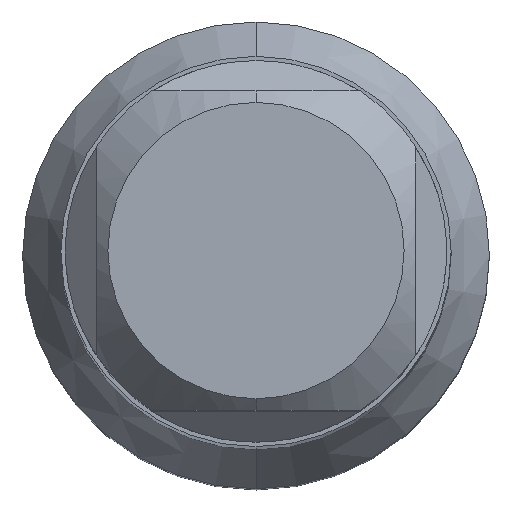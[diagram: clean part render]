
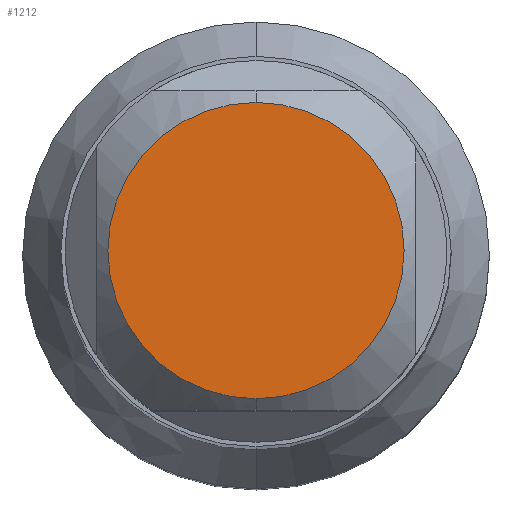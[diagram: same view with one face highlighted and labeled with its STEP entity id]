
A CAD part, top view. The second image highlights one B-rep face of the part: STEP entity #1212.
In plain terms, the highlighted planar face has unit normal (0, 0, 1).
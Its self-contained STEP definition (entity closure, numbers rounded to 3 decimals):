
#40 = DIRECTION ( 'NONE',  ( 0., 1., 0. ) ) ;
#48 = EDGE_CURVE ( 'NONE', #427, #1203, #729, .T. ) ;
#147 = CARTESIAN_POINT ( 'NONE',  ( 0., -4.175, 60. ) ) ;
#212 = AXIS2_PLACEMENT_3D ( 'NONE', #1175, #462, #40 ) ;
#379 = AXIS2_PLACEMENT_3D ( 'NONE', #669, #667, #665 ) ;
#389 = ORIENTED_EDGE ( 'NONE', *, *, #1161, .F. ) ;
#427 = VERTEX_POINT ( 'NONE', #147 ) ;
#449 = CIRCLE ( 'NONE', #212, 4.175 ) ;
#462 = DIRECTION ( 'NONE',  ( 0., 0., -1. ) ) ;
#632 = DIRECTION ( 'NONE',  ( 0., 0., -1. ) ) ;
#665 = DIRECTION ( 'NONE',  ( 0., 1., 0. ) ) ;
#667 = DIRECTION ( 'NONE',  ( 0., 0., -1. ) ) ;
#669 = CARTESIAN_POINT ( 'NONE',  ( 0., 0., 60. ) ) ;
#729 = CIRCLE ( 'NONE', #379, 4.175 ) ;
#1040 = ORIENTED_EDGE ( 'NONE', *, *, #48, .F. ) ;
#1071 = EDGE_LOOP ( 'NONE', ( #389, #1040 ) ) ;
#1074 = AXIS2_PLACEMENT_3D ( 'NONE', #1307, #632, #1202 ) ;
#1161 = EDGE_CURVE ( 'NONE', #1203, #427, #449, .T. ) ;
#1175 = CARTESIAN_POINT ( 'NONE',  ( 0., 0., 60. ) ) ;
#1195 = PLANE ( 'NONE',  #1074 ) ;
#1202 = DIRECTION ( 'NONE',  ( 0., 1., 0. ) ) ;
#1203 = VERTEX_POINT ( 'NONE', #1304 ) ;
#1212 = ADVANCED_FACE ( 'NONE', ( #1222 ), #1195, .F. ) ;
#1222 = FACE_OUTER_BOUND ( 'NONE', #1071, .T. ) ;
#1304 = CARTESIAN_POINT ( 'NONE',  ( 0., 4.175, 60. ) ) ;
#1307 = CARTESIAN_POINT ( 'NONE',  ( 0., 0., 60. ) ) ;
